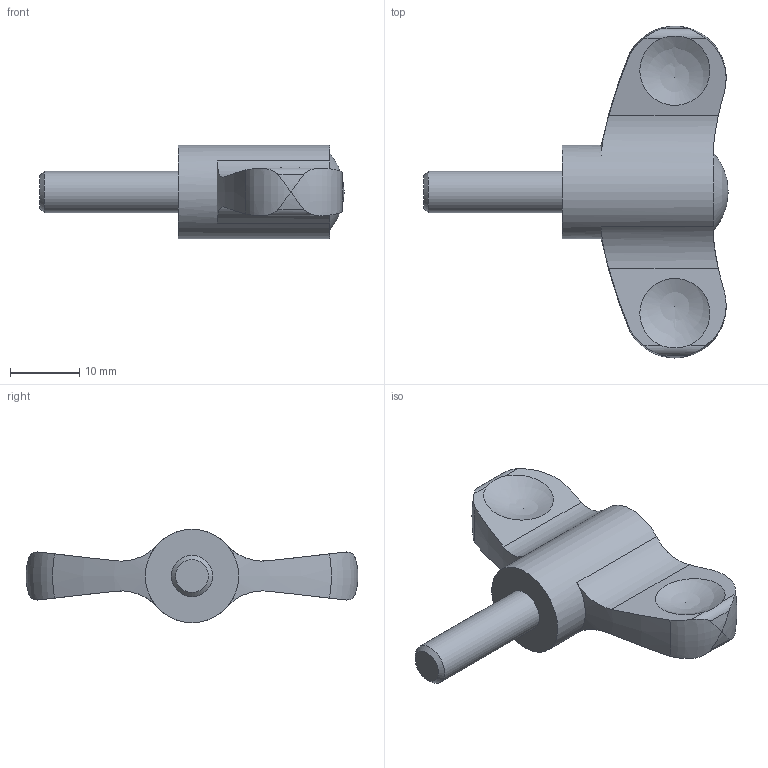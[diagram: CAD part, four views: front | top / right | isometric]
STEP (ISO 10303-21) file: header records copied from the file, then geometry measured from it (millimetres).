
FILE_DESCRIPTION( ( 'STEP AP203' ), '1' );
FILE_NAME( 'C:/Temp/Ganter_Step_05_03_2020/data/2_2/gn_633/Wing nut GN 633-48-M6-20-DGR.stp', '2020-03-05T12:20:37', ( 'License CC BY-ND 4.0' ), ( 'CADENAS' ), ' ', 'PARTsolutions', ' ' );
FILE_SCHEMA( ( 'CONFIG_CONTROL_DESIGN' ) );
Length unit declared in the file: millimetre
Products named in the file (1): _Wing nut GN 633-48-M6-20-DGR
Bounding box: 44 x 48 x 13.5 mm (x, y, z)
Volume: 6255.7 mm3; surface area: 2918.2 mm2
Topology: 1 solids, 1 shells, 33 faces, 102 edges, 68 vertices
Faces by surface type: cylinder 14, sphere 7, plane 7, bspline 2, torus 2, cone 1
Full cylindrical faces by diameter (mm): 6 x1, 13.5 x1
Entity records: 1450 total; most frequent: CARTESIAN_POINT 638, ORIENTED_EDGE 166, DIRECTION 138, EDGE_CURVE 83, VERTEX_POINT 63, AXIS2_PLACEMENT_3D 59, EDGE_LOOP 38, B_SPLINE_CURVE_WITH_KNOTS 36
